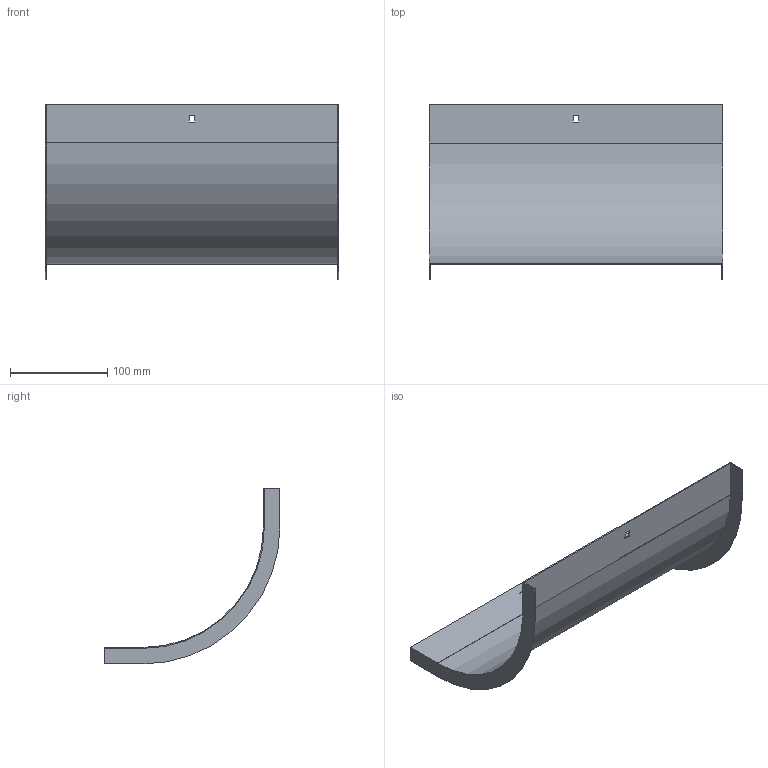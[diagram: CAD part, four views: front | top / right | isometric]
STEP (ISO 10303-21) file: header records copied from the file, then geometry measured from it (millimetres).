
FILE_DESCRIPTION (( 'STEP AP214' ), '1' );
FILE_NAME ('OS9_300.step', '2025-07-16T09:17:28', ( '' ), ( '' ), 'SwSTEP 2.0', 'SolidWorks 2023', '' );
FILE_SCHEMA (( 'AUTOMOTIVE_DESIGN' ));
Length unit declared in the file: millimetre
Products named in the file (1): OS9_300
Bounding box: 302 x 181 x 181 mm (x, y, z)
Volume: 92381.7 mm3; surface area: 186084.8 mm2
Topology: 1 solids, 1 shells, 26 faces, 72 edges, 48 vertices
Faces by surface type: plane 22, cylinder 4
Entity records: 855 total; most frequent: CARTESIAN_POINT 147, ORIENTED_EDGE 144, DIRECTION 134, EDGE_CURVE 72, VECTOR 64, LINE 64, VERTEX_POINT 48, AXIS2_PLACEMENT_3D 35
